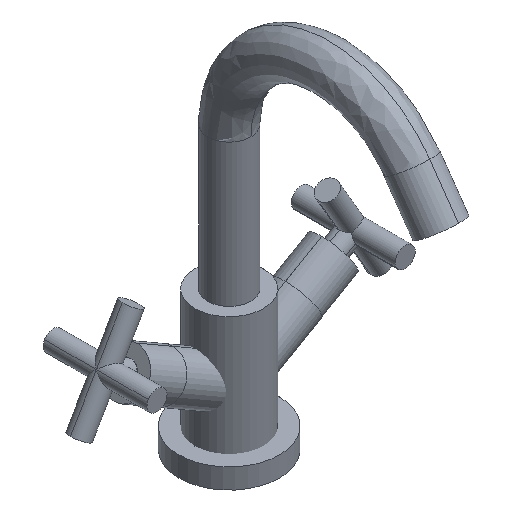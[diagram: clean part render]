
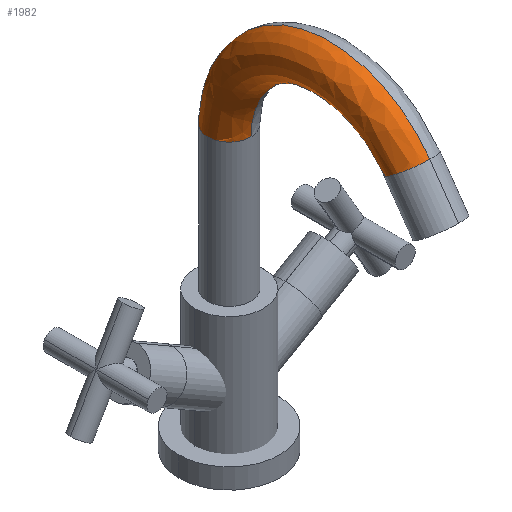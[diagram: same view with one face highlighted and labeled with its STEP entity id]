
A CAD part, isometric view. The second image highlights one B-rep face of the part: STEP entity #1982.
In plain terms, the highlighted free-form (B-spline) face has degree [2, 2] with [5, 5] control points.
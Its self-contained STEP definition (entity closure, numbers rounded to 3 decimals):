
#1913 = VERTEX_POINT('',#1914);
#1914 = CARTESIAN_POINT('',(0.,-119.798,
    209.871));
#1915 = VERTEX_POINT('',#1916);
#1916 = CARTESIAN_POINT('',(0.,-98.5,
    194.958));
#1923 = EDGE_CURVE('',#1924,#1913,#1926,.T.);
#1924 = VERTEX_POINT('',#1925);
#1925 = CARTESIAN_POINT('',(0.,13.,168.));
#1926 = CIRCLE('',#1927,73.);
#1927 = AXIS2_PLACEMENT_3D('',#1928,#1929,#1930);
#1928 = CARTESIAN_POINT('',(0.,-60.,168.));
#1929 = DIRECTION('',(1.,0.,0.));
#1930 = DIRECTION('',(-0.,1.,0.));
#1942 = VERTEX_POINT('',#1943);
#1943 = CARTESIAN_POINT('',(0.,-13.,168.));
#1950 = EDGE_CURVE('',#1915,#1942,#1951,.T.);
#1951 = CIRCLE('',#1952,47.);
#1952 = AXIS2_PLACEMENT_3D('',#1953,#1954,#1955);
#1953 = CARTESIAN_POINT('',(0.,-60.,168.));
#1954 = DIRECTION('',(-1.,0.,0.));
#1955 = DIRECTION('',(0.,1.,0.));
#1982 = ADVANCED_FACE('',(#1983),#2010,.F.);
#1983 = FACE_BOUND('',#1984,.F.);
#1984 = EDGE_LOOP('',(#1985,#1994,#2001,#2002,#2009));
#1985 = ORIENTED_EDGE('',*,*,#1986,.F.);
#1986 = EDGE_CURVE('',#1987,#1942,#1989,.T.);
#1987 = VERTEX_POINT('',#1988);
#1988 = CARTESIAN_POINT('',(-13.,0.,168.));
#1989 = CIRCLE('',#1990,13.);
#1990 = AXIS2_PLACEMENT_3D('',#1991,#1992,#1993);
#1991 = CARTESIAN_POINT('',(0.,0.,
    168.));
#1992 = DIRECTION('',(0.,0.,1.));
#1993 = DIRECTION('',(-1.,0.,0.));
#1994 = ORIENTED_EDGE('',*,*,#1995,.F.);
#1995 = EDGE_CURVE('',#1924,#1987,#1996,.T.);
#1996 = CIRCLE('',#1997,13.);
#1997 = AXIS2_PLACEMENT_3D('',#1998,#1999,#2000);
#1998 = CARTESIAN_POINT('',(0.,0.,
    168.));
#1999 = DIRECTION('',(0.,0.,1.));
#2000 = DIRECTION('',(0.,1.,0.));
#2001 = ORIENTED_EDGE('',*,*,#1923,.T.);
#2002 = ORIENTED_EDGE('',*,*,#2003,.F.);
#2003 = EDGE_CURVE('',#1915,#1913,#2004,.T.);
#2004 = CIRCLE('',#2005,13.);
#2005 = AXIS2_PLACEMENT_3D('',#2006,#2007,#2008);
#2006 = CARTESIAN_POINT('',(0.,-109.149,
    202.415));
#2007 = DIRECTION('',(0.,0.574,0.819)
  );
#2008 = DIRECTION('',(0.,0.819,-0.574)
  );
#2009 = ORIENTED_EDGE('',*,*,#1950,.T.);
#2010 = ( BOUNDED_SURFACE() B_SPLINE_SURFACE(2,2,(
    (#2011,#2012,#2013,#2014,#2015)
    ,(#2016,#2017,#2018,#2019,#2020)
    ,(#2021,#2022,#2023,#2024,#2025)
    ,(#2026,#2027,#2028,#2029,#2030)
    ,(#2031,#2032,#2033,#2034,#2035
)),.UNSPECIFIED.,.F.,.F.,.F.) B_SPLINE_SURFACE_WITH_KNOTS((3,2,3),(3,2,3
    ),(0.,1.571,3.142),(0.,1.265,
2.531),.UNSPECIFIED.) GEOMETRIC_REPRESENTATION_ITEM() 
RATIONAL_B_SPLINE_SURFACE((
    (1.,0.806,1.,0.806,1.)
    ,(0.707,0.57,0.707,0.57
      ,0.707)
    ,(1.,0.806,1.,0.806,1.)
    ,(0.707,0.57,0.707,0.57
      ,0.707)
,(1.,0.806,1.,0.806,1.
))) REPRESENTATION_ITEM('') SURFACE() );
#2011 = CARTESIAN_POINT('',(0.,-13.,168.));
#2012 = CARTESIAN_POINT('',(0.,-13.,202.462));
#2013 = CARTESIAN_POINT('',(0.,-45.867,
    212.825));
#2014 = CARTESIAN_POINT('',(0.,-78.734,
    223.188));
#2015 = CARTESIAN_POINT('',(0.,-98.5,
    194.958));
#2016 = CARTESIAN_POINT('',(-13.,-13.,168.));
#2017 = CARTESIAN_POINT('',(-13.,-13.,202.462));
#2018 = CARTESIAN_POINT('',(-13.,-45.867,212.825));
#2019 = CARTESIAN_POINT('',(-13.,-78.734,223.188));
#2020 = CARTESIAN_POINT('',(-13.,-98.5,194.958));
#2021 = CARTESIAN_POINT('',(-13.,0.,168.));
#2022 = CARTESIAN_POINT('',(-13.,0.,211.994));
#2023 = CARTESIAN_POINT('',(-13.,-41.958,225.223));
#2024 = CARTESIAN_POINT('',(-13.,-83.915,238.452));
#2025 = CARTESIAN_POINT('',(-13.,-109.149,202.415));
#2026 = CARTESIAN_POINT('',(-13.,13.,168.));
#2027 = CARTESIAN_POINT('',(-13.,13.,221.526));
#2028 = CARTESIAN_POINT('',(-13.,-38.048,237.621));
#2029 = CARTESIAN_POINT('',(-13.,-89.097,253.717));
#2030 = CARTESIAN_POINT('',(-13.,-119.798,209.871));
#2031 = CARTESIAN_POINT('',(0.,13.,168.));
#2032 = CARTESIAN_POINT('',(0.,13.,221.526));
#2033 = CARTESIAN_POINT('',(0.,-38.048,
    237.621));
#2034 = CARTESIAN_POINT('',(0.,-89.097,
    253.717));
#2035 = CARTESIAN_POINT('',(0.,-119.798,
    209.871));
